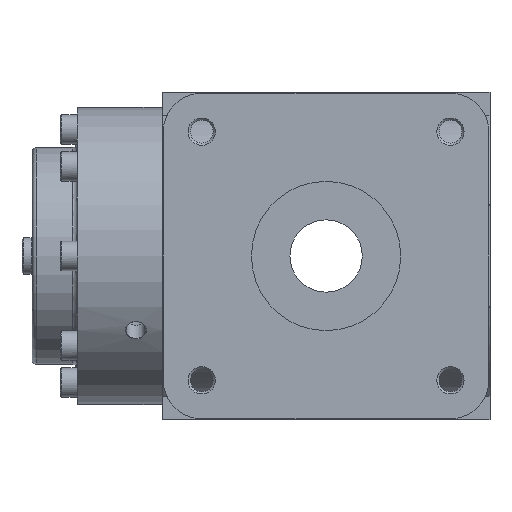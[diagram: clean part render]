
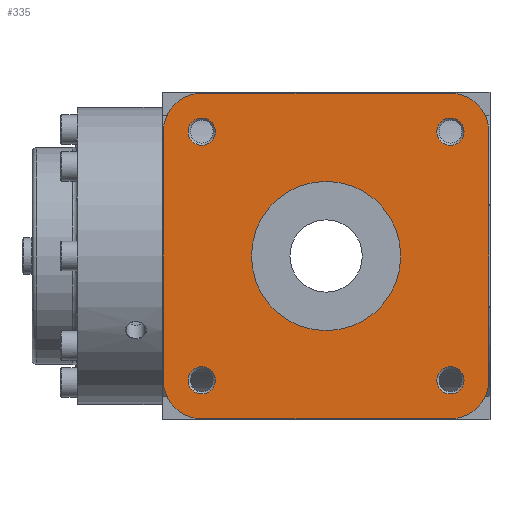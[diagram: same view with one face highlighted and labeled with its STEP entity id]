
A CAD part, left-side view. The second image highlights one B-rep face of the part: STEP entity #335.
In plain terms, the highlighted planar face has unit normal (-1, 0, 0).
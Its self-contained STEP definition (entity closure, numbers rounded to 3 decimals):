
#335 = ADVANCED_FACE( '', ( #809, #810, #811, #812, #813, #814 ), #815, .F. );
#809 = FACE_BOUND( '', #1437, .T. );
#810 = FACE_BOUND( '', #1438, .T. );
#811 = FACE_BOUND( '', #1439, .T. );
#812 = FACE_BOUND( '', #1440, .T. );
#813 = FACE_BOUND( '', #1441, .T. );
#814 = FACE_OUTER_BOUND( '', #1442, .T. );
#815 = PLANE( '', #1443 );
#1437 = EDGE_LOOP( '', ( #2428 ) );
#1438 = EDGE_LOOP( '', ( #2429 ) );
#1439 = EDGE_LOOP( '', ( #2430 ) );
#1440 = EDGE_LOOP( '', ( #2431 ) );
#1441 = EDGE_LOOP( '', ( #2432 ) );
#1442 = EDGE_LOOP( '', ( #2433, #2434, #2435, #2436, #2437, #2438, #2439, #2440 ) );
#1443 = AXIS2_PLACEMENT_3D( '', #2441, #2442, #2443 );
#2428 = ORIENTED_EDGE( '', *, *, #3626, .T. );
#2429 = ORIENTED_EDGE( '', *, *, #3627, .T. );
#2430 = ORIENTED_EDGE( '', *, *, #3367, .T. );
#2431 = ORIENTED_EDGE( '', *, *, #3628, .T. );
#2432 = ORIENTED_EDGE( '', *, *, #3629, .T. );
#2433 = ORIENTED_EDGE( '', *, *, #3630, .F. );
#2434 = ORIENTED_EDGE( '', *, *, #3631, .F. );
#2435 = ORIENTED_EDGE( '', *, *, #3632, .F. );
#2436 = ORIENTED_EDGE( '', *, *, #3633, .F. );
#2437 = ORIENTED_EDGE( '', *, *, #3361, .F. );
#2438 = ORIENTED_EDGE( '', *, *, #3545, .F. );
#2439 = ORIENTED_EDGE( '', *, *, #3423, .F. );
#2440 = ORIENTED_EDGE( '', *, *, #3634, .F. );
#2441 = CARTESIAN_POINT( '', ( 0., 0., 0. ) );
#2442 = DIRECTION( '', ( 1., 0., 0. ) );
#2443 = DIRECTION( '', ( 0., 0., -1. ) );
#3361 = EDGE_CURVE( '', #3964, #3965, #3966, .T. );
#3367 = EDGE_CURVE( '', #3975, #3975, #3976, .T. );
#3423 = EDGE_CURVE( '', #4071, #4072, #4073, .T. );
#3545 = EDGE_CURVE( '', #4072, #3964, #4271, .T. );
#3626 = EDGE_CURVE( '', #4391, #4391, #4392, .T. );
#3627 = EDGE_CURVE( '', #4393, #4393, #4394, .T. );
#3628 = EDGE_CURVE( '', #4395, #4395, #4396, .T. );
#3629 = EDGE_CURVE( '', #4397, #4397, #4398, .T. );
#3630 = EDGE_CURVE( '', #4399, #4400, #4401, .T. );
#3631 = EDGE_CURVE( '', #4402, #4399, #4403, .T. );
#3632 = EDGE_CURVE( '', #4404, #4402, #4405, .T. );
#3633 = EDGE_CURVE( '', #3965, #4404, #4406, .T. );
#3634 = EDGE_CURVE( '', #4400, #4071, #4407, .T. );
#3964 = VERTEX_POINT( '', #4835 );
#3965 = VERTEX_POINT( '', #4836 );
#3966 = CIRCLE( '', #4837, 17. );
#3975 = VERTEX_POINT( '', #4848 );
#3976 = CIRCLE( '', #4849, 6. );
#4071 = VERTEX_POINT( '', #5039 );
#4072 = VERTEX_POINT( '', #5040 );
#4073 = CIRCLE( '', #5041, 17. );
#4271 = LINE( '', #5391, #5392 );
#4391 = VERTEX_POINT( '', #5620 );
#4392 = CIRCLE( '', #5621, 6. );
#4393 = VERTEX_POINT( '', #5622 );
#4394 = CIRCLE( '', #5623, 6. );
#4395 = VERTEX_POINT( '', #5624 );
#4396 = CIRCLE( '', #5625, 6. );
#4397 = VERTEX_POINT( '', #5626 );
#4398 = CIRCLE( '', #5627, 33. );
#4399 = VERTEX_POINT( '', #5628 );
#4400 = VERTEX_POINT( '', #5629 );
#4401 = CIRCLE( '', #5630, 17. );
#4402 = VERTEX_POINT( '', #5631 );
#4403 = LINE( '', #5632, #5633 );
#4404 = VERTEX_POINT( '', #5634 );
#4405 = CIRCLE( '', #5635, 17. );
#4406 = LINE( '', #5636, #5637 );
#4407 = LINE( '', #5638, #5639 );
#4835 = CARTESIAN_POINT( '', ( 0., 55., -72. ) );
#4836 = CARTESIAN_POINT( '', ( 0., 72., -55. ) );
#4837 = AXIS2_PLACEMENT_3D( '', #6122, #6123, #6124 );
#4848 = CARTESIAN_POINT( '', ( 0., 55., 49. ) );
#4849 = AXIS2_PLACEMENT_3D( '', #6133, #6134, #6135 );
#5039 = CARTESIAN_POINT( '', ( 0., -72., -55. ) );
#5040 = CARTESIAN_POINT( '', ( 0., -55., -72. ) );
#5041 = AXIS2_PLACEMENT_3D( '', #6196, #6197, #6198 );
#5391 = CARTESIAN_POINT( '', ( 0., -55., -72. ) );
#5392 = VECTOR( '', #6369, 1000. );
#5620 = CARTESIAN_POINT( '', ( 0., -55., 49. ) );
#5621 = AXIS2_PLACEMENT_3D( '', #6456, #6457, #6458 );
#5622 = CARTESIAN_POINT( '', ( 0., -55., -61. ) );
#5623 = AXIS2_PLACEMENT_3D( '', #6459, #6460, #6461 );
#5624 = CARTESIAN_POINT( '', ( 0., 55., -61. ) );
#5625 = AXIS2_PLACEMENT_3D( '', #6462, #6463, #6464 );
#5626 = CARTESIAN_POINT( '', ( 0., 0., -33. ) );
#5627 = AXIS2_PLACEMENT_3D( '', #6465, #6466, #6467 );
#5628 = CARTESIAN_POINT( '', ( 0., -55., 72. ) );
#5629 = CARTESIAN_POINT( '', ( 0., -72., 55. ) );
#5630 = AXIS2_PLACEMENT_3D( '', #6468, #6469, #6470 );
#5631 = CARTESIAN_POINT( '', ( 0., 55., 72. ) );
#5632 = CARTESIAN_POINT( '', ( 0., 55., 72. ) );
#5633 = VECTOR( '', #6471, 1000. );
#5634 = CARTESIAN_POINT( '', ( 0., 72., 55. ) );
#5635 = AXIS2_PLACEMENT_3D( '', #6472, #6473, #6474 );
#5636 = CARTESIAN_POINT( '', ( 0., 72., -55. ) );
#5637 = VECTOR( '', #6475, 1000. );
#5638 = CARTESIAN_POINT( '', ( 0., -72., 55. ) );
#5639 = VECTOR( '', #6476, 1000. );
#6122 = CARTESIAN_POINT( '', ( 0., 55., -55. ) );
#6123 = DIRECTION( '', ( 1., 0., 0. ) );
#6124 = DIRECTION( '', ( 0., 0., -1. ) );
#6133 = CARTESIAN_POINT( '', ( 0., 55., 55. ) );
#6134 = DIRECTION( '', ( 1., 0., 0. ) );
#6135 = DIRECTION( '', ( 0., 0., -1. ) );
#6196 = CARTESIAN_POINT( '', ( 0., -55., -55. ) );
#6197 = DIRECTION( '', ( 1., 0., 0. ) );
#6198 = DIRECTION( '', ( 0., 0., -1. ) );
#6369 = DIRECTION( '', ( 0., 1., 0. ) );
#6456 = CARTESIAN_POINT( '', ( 0., -55., 55. ) );
#6457 = DIRECTION( '', ( 1., 0., 0. ) );
#6458 = DIRECTION( '', ( 0., 0., -1. ) );
#6459 = CARTESIAN_POINT( '', ( 0., -55., -55. ) );
#6460 = DIRECTION( '', ( 1., 0., 0. ) );
#6461 = DIRECTION( '', ( 0., 0., -1. ) );
#6462 = CARTESIAN_POINT( '', ( 0., 55., -55. ) );
#6463 = DIRECTION( '', ( 1., 0., 0. ) );
#6464 = DIRECTION( '', ( 0., 0., -1. ) );
#6465 = CARTESIAN_POINT( '', ( 0., 0., 0. ) );
#6466 = DIRECTION( '', ( 1., 0., 0. ) );
#6467 = DIRECTION( '', ( 0., 0., -1. ) );
#6468 = CARTESIAN_POINT( '', ( 0., -55., 55. ) );
#6469 = DIRECTION( '', ( 1., 0., 0. ) );
#6470 = DIRECTION( '', ( 0., 0., -1. ) );
#6471 = DIRECTION( '', ( 0., -1., 0. ) );
#6472 = CARTESIAN_POINT( '', ( 0., 55., 55. ) );
#6473 = DIRECTION( '', ( 1., 0., 0. ) );
#6474 = DIRECTION( '', ( 0., 0., -1. ) );
#6475 = DIRECTION( '', ( 0., 0., 1. ) );
#6476 = DIRECTION( '', ( 0., 0., -1. ) );
